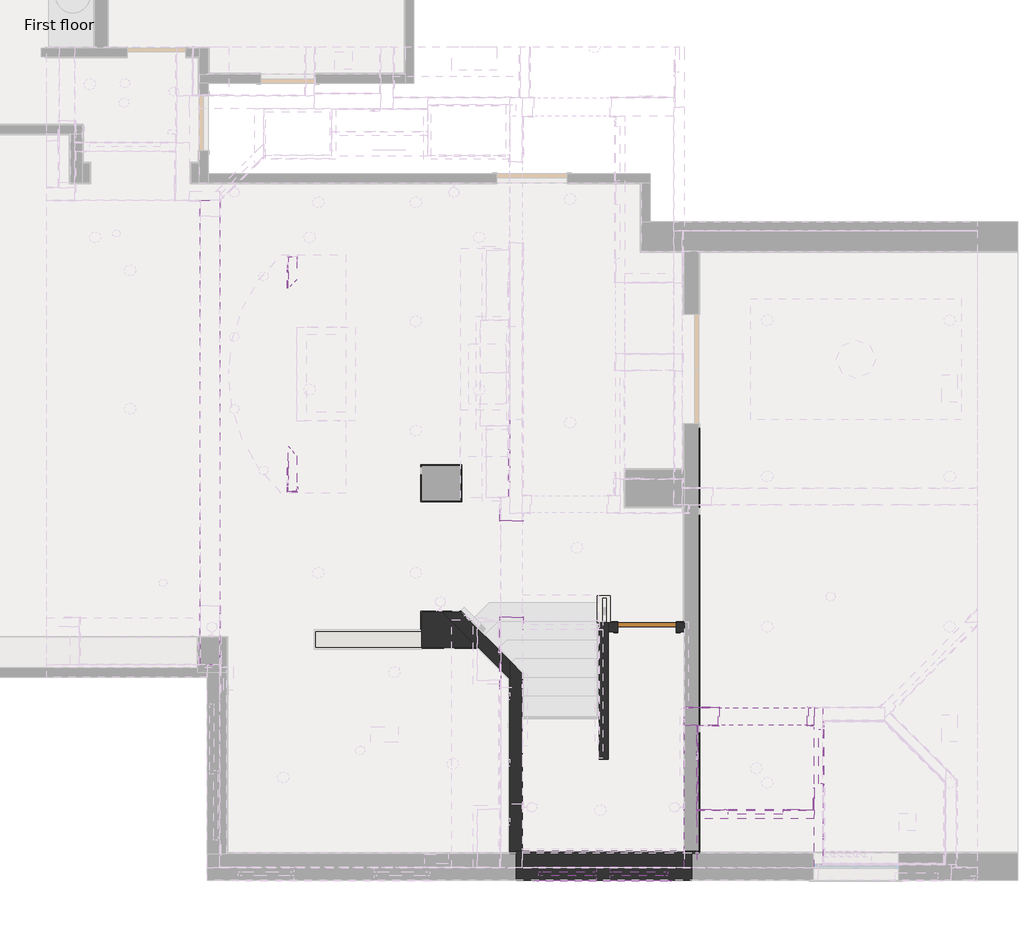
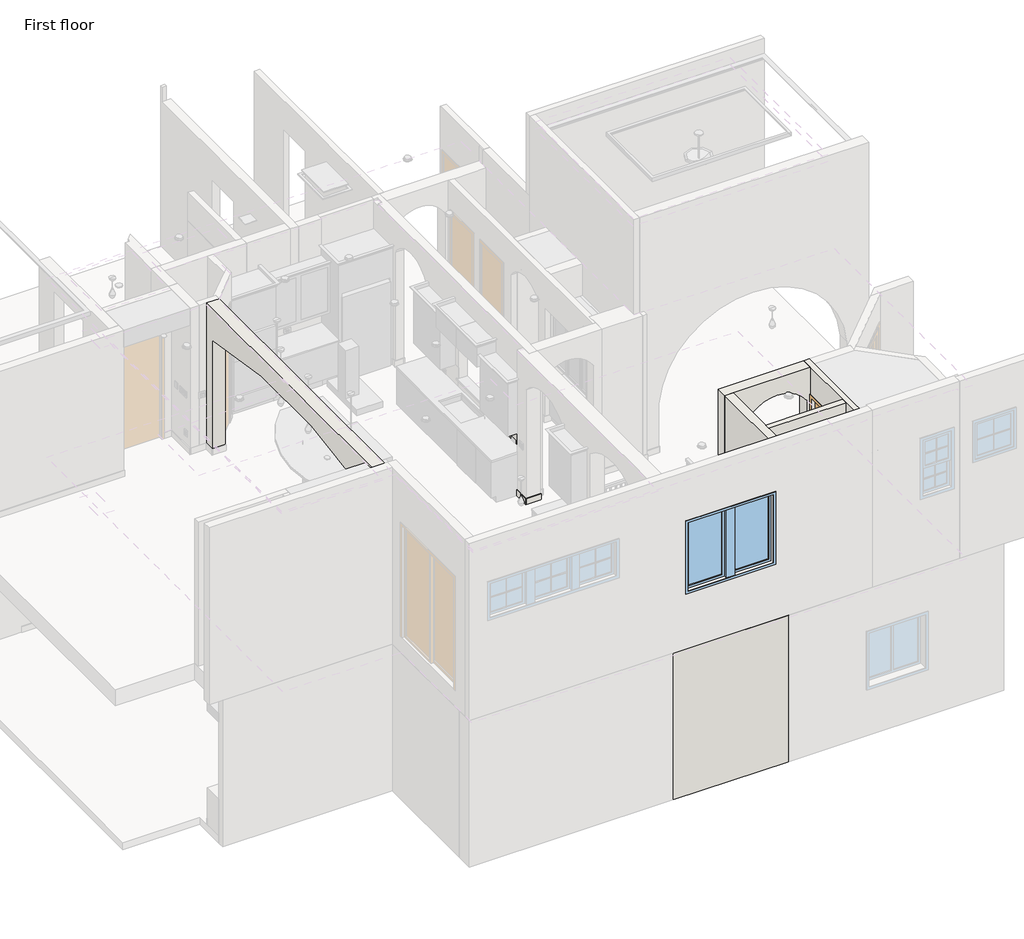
# One storey, part 4 of 14: 47 walls, 3 doors, 1 window.
"""IFC4 building model written with IfcOpenShell, lengths in millimetres."""

from ifc_helpers import new_model, si_unit, point, frame, frame_2d, origin, origin_with_axes, place, context, project, spatial, polyline, circle_curve, trimmed, segment, composite_curve, outline, extrude, faceted_brep, transform, mapped, element, save
from ifc_brep_helpers import plane_surface, revolved_surface, advanced_brep
from components import door_c2b4dc18, door_8ee43d1d, window_eebe5252

model = new_model("IFC4")

# Units and contexts
model_context = context("Model", 3, world=origin())
ifc_project = project(units=[si_unit("LENGTHUNIT", "METRE", prefix="MILLI")], contexts=[model_context])

# Site, building, storey
site = spatial("IfcSite", under=ifc_project)
building = spatial("IfcBuilding", under=site)
storey = spatial("IfcBuildingStorey", under=building, Name="First floor", Elevation=0.0)

# Doors
placement = place(None, origin())
door_shape = door_c2b4dc18(model_context)
element("IfcDoor", 1, ObjectType="Door_1 : 2'-4\" X 8'-0\"", at=placement, inside=storey, context=model_context, shape_type="MappedRepresentation", body=[
    mapped(door_shape, transform((7137.4, 857.25, 3251.2), x_axis=(-1.0, 0.0, 0.0), y_axis=(0.0, -1.0, 0.0), z_axis=(0.0, 0.0, 1.0))),
])
element("IfcDoor", 2, ObjectType="Door_1 : 2'-4\" X 8'-0\"", at=placement, inside=storey, context=model_context, shape_type="MappedRepresentation", body=[
    mapped(door_shape, transform((7956.55, 1612.9, 3251.2), x_axis=(0.0, 1.0, 0.0), y_axis=(-1.0, 0.0, 0.0), z_axis=(0.0, 0.0, 1.0))),
])
door_2_shape = door_8ee43d1d(model_context)
element("IfcDoor", 3, ObjectType="Door_1 : 2'-6\" X 8'-0\"", at=placement, inside=storey, context=model_context, shape_type="MappedRepresentation", body=[
    mapped(door_2_shape, transform((5727.7, 3295.65, 0.0), x_axis=(1.0, 0.0, 0.0), y_axis=(0.0, 1.0, 0.0), z_axis=(0.0, 0.0, 1.0))),
])

# Walls
element("IfcWall", 4, ObjectType="Wall Border_T1", at=placement, inside=storey, context=model_context, shape_type="SweptSolid", body=[
    extrude(outline(polyline([(6413.5, 5892.8), (6413.5, 368.3), (6400.8, 368.3), (6400.8, 5892.8), (6413.5, 5892.8)])), origin_with_axes(), (0.0, 0.0, 1.0), 127.0),
])
element("IfcWall", 5, ObjectType="Wall Border_T1", at=placement, inside=storey, context=model_context, shape_type="Brep", body=[
    faceted_brep([(6210.3, 3365.5, 0.0), (6197.6, 3365.5, 0.0), (6159.5, 3365.5, 0.0), (6159.5, 3365.5, 127.0), (6197.6, 3365.5, 127.0), (6210.3, 3365.5, 127.0), (6210.3, 3352.8, 0.0), (6210.3, 3352.8, 127.0), (6159.5, 3352.8, 127.0), (6159.5, 3352.8, 0.0)], [[[0, 1, 2, 3, 4, 5]], [[6, 7, 8, 9]], [[2, 1, 0, 6, 9]], [[3, 2, 9, 8]], [[5, 4, 3, 8, 7]], [[0, 5, 7, 6]]]),
])
element("IfcWall", 6, ObjectType="Wall Border_T1", at=placement, inside=storey, context=model_context, shape_type="SweptSolid", body=[
    extrude(outline(polyline([(5264.15, 3365.5), (5295.9, 3365.5), (5295.9, 3352.8), (5264.15, 3352.8), (5264.15, 3365.5)])), origin_with_axes(), (0.0, 0.0, 1.0), 127.0),
])
element("IfcWall", 7, ObjectType="Wall Border_T1", at=placement, inside=storey, context=model_context, shape_type="SweptSolid", body=[
    extrude(outline(polyline([(3307.2174749, 3505.3868122), (3455.3917009, 3357.2125862), (3446.4114448, 3348.2323301), (3301.9569627, 3492.6868122), (3307.2174749, 3492.6868122), (3307.2174749, 3505.3868122)])), origin_with_axes(), (0.0, 0.0, 1.0), 127.0),
])
element("IfcWall", 8, ObjectType="Wall Border_T1", at=placement, inside=storey, context=model_context, shape_type="Brep", body=[
    faceted_brep([(3307.2174749, 3505.3868122, 127.0), (3307.2174749, 3505.3868122, 0.0), (2795.4633407, 3505.3868122, 0.0), (2795.4633407, 3505.3868122, 127.0), (3307.2174749, 3492.6868122, 0.0), (3307.2174749, 3492.6868122, 127.0), (3301.9569627, 3492.6868122, 127.0), (2795.4633407, 3492.6868122, 127.0), (2795.4633407, 3492.6868122, 0.0), (3301.9569627, 3492.6868122, 0.0)], [[[0, 1, 2, 3]], [[4, 5, 6, 7, 8, 9]], [[1, 4, 9, 8, 2]], [[5, 0, 3, 7, 6]], [[1, 0, 5, 4]], [[3, 2, 8, 7]]]),
])
element("IfcWall", 9, ObjectType="Wall Border_T1", at=placement, inside=storey, context=model_context, shape_type="Brep", body=[
    faceted_brep([(2782.7633407, 3505.3868122, 0.0), (2782.7633407, 3251.1999999, 0.0), (2782.7633407, 3251.1999999, 127.0), (2782.7633407, 3505.3868122, 127.0), (2795.4633407, 3505.3868122, 0.0), (2795.4633407, 3505.3868122, 127.0), (2795.4633407, 3492.6868122, 127.0), (2795.4633407, 3251.1999999, 127.0), (2795.4633407, 3251.1999999, 0.0), (2795.4633407, 3492.6868122, 0.0)], [[[0, 1, 2, 3]], [[4, 5, 6, 7, 8, 9]], [[1, 0, 4, 9, 8]], [[2, 1, 8, 7]], [[3, 2, 7, 6, 5]], [[0, 3, 5, 4]]]),
])
element("IfcWall", 10, ObjectType="Wall Border_T1", at=placement, inside=storey, context=model_context, shape_type="Brep", body=[
    faceted_brep([(2782.7633407, 3251.1999999, 0.0), (1404.813341, 3251.1999999, 0.0), (1404.813341, 3251.1999999, 127.0), (2782.7633407, 3251.1999999, 127.0), (2782.7633407, 3238.4999999, 0.0), (2782.7633407, 3238.4999999, 127.0), (1417.513341, 3238.4999999, 127.0), (1404.813341, 3238.4999999, 127.0), (1404.813341, 3238.4999999, 0.0), (1417.513341, 3238.4999999, 0.0)], [[[0, 1, 2, 3]], [[4, 5, 6, 7, 8, 9]], [[1, 0, 4, 9, 8]], [[3, 2, 7, 6, 5]], [[0, 3, 5, 4]], [[2, 1, 8, 7]]]),
])
element("IfcWall", 11, ObjectType="Wall Border_T1", at=placement, inside=storey, context=model_context, shape_type="Brep", body=[
    faceted_brep([(1404.813341, 3022.6000001, 0.0), (3520.4528287, 3022.6000001, 0.0), (3520.4528287, 3022.6000001, 127.0), (1404.813341, 3022.6000001, 127.0), (1404.813341, 3035.3000001, 0.0), (1404.813341, 3035.3000001, 127.0), (1417.513341, 3035.3000001, 127.0), (3520.4528287, 3035.3000001, 127.0), (3520.4528287, 3035.3000001, 0.0), (1417.513341, 3035.3000001, 0.0)], [[[0, 1, 2, 3]], [[4, 5, 6, 7, 8, 9]], [[1, 0, 4, 9, 8]], [[2, 1, 8, 7]], [[3, 2, 7, 6, 5]], [[0, 3, 5, 4]]]),
])
element("IfcWall", 12, ObjectType="Wall Border_T1", at=placement, inside=storey, context=model_context, shape_type="Brep", body=[
    faceted_brep([(2781.3, 5397.5, 0.0), (2794.0, 5397.5, 0.0), (3302.0, 5397.5, 0.0), (3314.7, 5397.5, 0.0), (3314.7, 5397.5, 127.0), (3302.0, 5397.5, 127.0), (2794.0, 5397.5, 127.0), (2781.3, 5397.5, 127.0), (2781.3, 5410.2, 0.0), (2781.3, 5410.2, 127.0), (3314.7, 5410.2, 127.0), (3314.7, 5410.2, 0.0)], [[[0, 1, 2, 3, 4, 5, 6, 7]], [[8, 9, 10, 11]], [[3, 2, 1, 0, 8, 11]], [[7, 6, 5, 4, 10, 9]], [[4, 3, 11, 10]], [[0, 7, 9, 8]]]),
])
element("IfcWall", 13, ObjectType="Wall Border_T1", at=placement, inside=storey, context=model_context, shape_type="Brep", body=[
    faceted_brep([(3302.0, 5397.5, 0.0), (3302.0, 4940.3, 0.0), (3302.0, 4927.6, 0.0), (3302.0, 4927.6, 127.0), (3302.0, 4940.3, 127.0), (3302.0, 5397.5, 127.0), (3314.7, 5397.5, 0.0), (3314.7, 5397.5, 127.0), (3314.7, 4927.6, 127.0), (3314.7, 4927.6, 0.0)], [[[0, 1, 2, 3, 4, 5]], [[6, 7, 8, 9]], [[2, 1, 0, 6, 9]], [[5, 4, 3, 8, 7]], [[0, 5, 7, 6]], [[3, 2, 9, 8]]]),
])
element("IfcWall", 14, ObjectType="Wall Border_T1", at=placement, inside=storey, context=model_context, shape_type="Brep", body=[
    faceted_brep([(3302.0, 4940.3, 0.0), (2794.0, 4940.3, 0.0), (2781.3, 4940.3, 0.0), (2781.3, 4940.3, 127.0), (2794.0, 4940.3, 127.0), (3302.0, 4940.3, 127.0), (3302.0, 4927.6, 0.0), (3302.0, 4927.6, 127.0), (2781.3, 4927.6, 127.0), (2781.3, 4927.6, 0.0)], [[[0, 1, 2, 3, 4, 5]], [[6, 7, 8, 9]], [[2, 1, 0, 6, 9]], [[5, 4, 3, 8, 7]], [[0, 5, 7, 6]], [[3, 2, 9, 8]]]),
])
element("IfcWall", 15, ObjectType="Wall Border_T1", at=placement, inside=storey, context=model_context, shape_type="SweptSolid", body=[
    extrude(outline(polyline([(2794.0, 5397.5), (2794.0, 4940.3), (2781.3, 4940.3), (2781.3, 5397.5), (2794.0, 5397.5)])), origin_with_axes(), (0.0, 0.0, 1.0), 127.0),
])
element("IfcWall", 16, ObjectType="Wall Border_T1", at=placement, inside=storey, context=model_context, shape_type="Brep", body=[
    faceted_brep([(4114.8, 3263.9, 3251.2), (4114.8, 3428.8947939, 3251.2), (4114.8, 3428.8947939, 3378.2), (4114.8, 3263.9, 3378.2), (4102.1, 3263.9, 3251.2), (4102.1, 3263.9, 3378.2), (4102.1, 3416.1947939, 3378.2), (4102.1, 3428.8947939, 3378.2), (4102.1, 3428.8947939, 3251.2), (4102.1, 3416.1947939, 3251.2)], [[[0, 1, 2, 3]], [[4, 5, 6, 7, 8, 9]], [[1, 0, 4, 9, 8]], [[3, 2, 7, 6, 5]], [[0, 3, 5, 4]], [[2, 1, 8, 7]]]),
])
element("IfcWall", 17, ObjectType="Wall Border_T1", at=placement, inside=storey, context=model_context, shape_type="Brep", body=[
    faceted_brep([(4102.1, 3428.8947939, 3251.2), (3810.0, 3428.8947939, 3251.2), (3810.0, 3428.8947939, 3378.2), (4102.1, 3428.8947939, 3378.2), (4102.1, 3416.1947939, 3251.2), (4102.1, 3416.1947939, 3378.2), (3822.7, 3416.1947939, 3378.2), (3810.0, 3416.1947939, 3378.2), (3810.0, 3416.1947939, 3251.2), (3822.7, 3416.1947939, 3251.2)], [[[0, 1, 2, 3]], [[4, 5, 6, 7, 8, 9]], [[1, 0, 4, 9, 8]], [[3, 2, 7, 6, 5]], [[0, 3, 5, 4]], [[2, 1, 8, 7]]]),
])
element("IfcWall", 18, ObjectType="Wall Border_T1", at=placement, inside=storey, context=model_context, shape_type="SweptSolid", body=[
    extrude(outline(polyline([(3822.7, 3416.1947939), (3822.7, 3384.55), (3810.0, 3384.55), (3810.0, 3416.1947939), (3822.7, 3416.1947939)])), frame((0.0, 0.0, 3251.2), z_axis=(0.0, 0.0, 1.0), x_axis=(1.0, 0.0, 0.0)), (0.0, 0.0, 1.0), 127.0),
])
element("IfcWall", 19, ObjectType="Wall Border_T1", at=placement, inside=storey, context=model_context, shape_type="Brep", body=[
    faceted_brep([(6210.3, 2247.9, 3251.2), (6654.8, 2247.9, 3251.2), (6667.5, 2247.9, 3251.2), (6667.5, 2247.9, 3378.2), (6654.8, 2247.9, 3378.2), (6210.3, 2247.9, 3378.2), (6210.3, 2260.6, 3251.2), (6210.3, 2260.6, 3378.2), (6667.5, 2260.6, 3378.2), (6667.5, 2260.6, 3251.2)], [[[0, 1, 2, 3, 4, 5]], [[6, 7, 8, 9]], [[2, 1, 0, 6, 9]], [[5, 4, 3, 8, 7]], [[0, 5, 7, 6]], [[3, 2, 9, 8]]]),
])
element("IfcWall", 20, ObjectType="Wall Border_T1", at=placement, inside=storey, context=model_context, shape_type="Brep", body=[
    faceted_brep([(6654.8, 2247.9, 3251.2), (6654.8, 2019.3, 3251.2), (6654.8, 2006.6, 3251.2), (6654.8, 2006.6, 3378.2), (6654.8, 2019.3, 3378.2), (6654.8, 2247.9, 3378.2), (6667.5, 2247.9, 3251.2), (6667.5, 2247.9, 3378.2), (6667.5, 2006.6, 3378.2), (6667.5, 2006.6, 3251.2)], [[[0, 1, 2, 3, 4, 5]], [[6, 7, 8, 9]], [[2, 1, 0, 6, 9]], [[5, 4, 3, 8, 7]], [[0, 5, 7, 6]], [[3, 2, 9, 8]]]),
])
element("IfcWall", 21, ObjectType="Wall Border_T1", at=placement, inside=storey, context=model_context, shape_type="Brep", body=[
    faceted_brep([(6654.8, 2019.3, 3251.2), (6375.4, 2019.3, 3251.2), (6375.4, 2019.3, 3378.2), (6654.8, 2019.3, 3378.2), (6654.8, 2006.6, 3251.2), (6654.8, 2006.6, 3378.2), (6388.1, 2006.6, 3378.2), (6375.4, 2006.6, 3378.2), (6375.4, 2006.6, 3251.2), (6388.1, 2006.6, 3251.2)], [[[0, 1, 2, 3]], [[4, 5, 6, 7, 8, 9]], [[1, 0, 4, 9, 8]], [[3, 2, 7, 6, 5]], [[0, 3, 5, 4]], [[2, 1, 8, 7]]]),
])
element("IfcWall", 22, ObjectType="Wall Border_T1", at=placement, inside=storey, context=model_context, shape_type="Brep", body=[
    faceted_brep([(6375.4, 2006.6, 3251.2), (6375.4, 914.4, 3251.2), (6375.4, 914.4, 3378.2), (6375.4, 2006.6, 3378.2), (6388.1, 2006.6, 3251.2), (6388.1, 2006.6, 3378.2), (6388.1, 927.1, 3378.2), (6388.1, 914.4, 3378.2), (6388.1, 914.4, 3251.2), (6388.1, 927.1, 3251.2)], [[[0, 1, 2, 3]], [[4, 5, 6, 7, 8, 9]], [[1, 0, 4, 9, 8]], [[3, 2, 7, 6, 5]], [[0, 3, 5, 4]], [[2, 1, 8, 7]]]),
])
element("IfcWall", 23, ObjectType="Wall Border_T1", at=placement, inside=storey, context=model_context, shape_type="SweptSolid", body=[
    extrude(outline(polyline([(6731.0, 914.4), (6388.1, 914.4), (6388.1, 927.1), (6731.0, 927.1), (6731.0, 914.4)])), frame((0.0, 0.0, 3251.2), z_axis=(0.0, 0.0, 1.0), x_axis=(1.0, 0.0, 0.0)), (0.0, 0.0, 1.0), 127.0),
])
element("IfcWall", 24, ObjectType="Wall Border_T1", at=placement, inside=storey, context=model_context, shape_type="SweptSolid", body=[
    extrude(outline(polyline([(7543.8, 927.1), (7886.7, 927.1), (7886.7, 914.4), (7543.8, 914.4), (7543.8, 927.1)])), frame((0.0, 0.0, 3251.2), z_axis=(0.0, 0.0, 1.0), x_axis=(1.0, 0.0, 0.0)), (0.0, 0.0, 1.0), 127.0),
])
element("IfcWall", 25, ObjectType="Wall Border_T1", at=placement, inside=storey, context=model_context, shape_type="Brep", body=[
    faceted_brep([(7886.7, 2019.3, 3251.2), (7823.2, 2019.3, 3251.2), (7810.5, 2019.3, 3251.2), (7810.5, 2019.3, 3378.2), (7823.2, 2019.3, 3378.2), (7886.7, 2019.3, 3378.2), (7886.7, 2006.6, 3251.2), (7886.7, 2006.6, 3378.2), (7810.5, 2006.6, 3378.2), (7810.5, 2006.6, 3251.2)], [[[0, 1, 2, 3, 4, 5]], [[6, 7, 8, 9]], [[2, 1, 0, 6, 9]], [[5, 4, 3, 8, 7]], [[0, 5, 7, 6]], [[3, 2, 9, 8]]]),
])
element("IfcWall", 26, ObjectType="Wall Border_T1", at=placement, inside=storey, context=model_context, shape_type="Brep", body=[
    faceted_brep([(7823.2, 2019.3, 3251.2), (7823.2, 2247.9, 3251.2), (7823.2, 2260.6, 3251.2), (7823.2, 2260.6, 3378.2), (7823.2, 2247.9, 3378.2), (7823.2, 2019.3, 3378.2), (7810.5, 2019.3, 3251.2), (7810.5, 2019.3, 3378.2), (7810.5, 2260.6, 3378.2), (7810.5, 2260.6, 3251.2)], [[[0, 1, 2, 3, 4, 5]], [[6, 7, 8, 9]], [[2, 1, 0, 6, 9]], [[5, 4, 3, 8, 7]], [[0, 5, 7, 6]], [[3, 2, 9, 8]]]),
])
element("IfcWall", 27, ObjectType="Wall Border_T1", at=placement, inside=storey, context=model_context, shape_type="Brep", body=[
    faceted_brep([(3810.0, 3390.9, 4165.6), (3810.0, 2489.2, 4165.6), (3810.0, 2489.2, 4318.0), (3810.0, 2489.2, 4343.4), (3810.0, 2489.2, 4546.6), (3810.0, 3390.9, 4546.6), (3822.7, 3390.9, 4165.6), (3822.7, 3390.9, 4546.6), (3822.7, 2489.2, 4546.6), (3822.7, 2489.2, 4343.4), (3822.7, 2489.2, 4318.0), (3822.7, 2489.2, 4165.6)], [[[0, 1, 2, 3, 4, 5]], [[6, 7, 8, 9, 10, 11]], [[1, 0, 6, 11]], [[4, 3, 2, 1, 11, 10, 9, 8]], [[5, 4, 8, 7]], [[0, 5, 7, 6]]]),
])
element("IfcWall", 28, ObjectType="Wall Border_T1", at=placement, inside=storey, context=model_context, shape_type="Brep", body=[
    faceted_brep([(7886.7, 1206.5, 3251.2), (7886.7, 927.1, 3251.2), (7886.7, 914.4, 3251.2), (7886.7, 914.4, 3378.2), (7886.7, 927.1, 3378.2), (7886.7, 1206.5, 3378.2), (7899.4, 1206.5, 3251.2), (7899.4, 1206.5, 3378.2), (7899.4, 914.4, 3378.2), (7899.4, 914.4, 3251.2)], [[[0, 1, 2, 3, 4, 5]], [[6, 7, 8, 9]], [[2, 1, 0, 6, 9]], [[5, 4, 3, 8, 7]], [[0, 5, 7, 6]], [[3, 2, 9, 8]]]),
])
element("IfcWall", 29, ObjectType="Wall Border_T1", at=placement, inside=storey, context=model_context, shape_type="Brep", body=[
    faceted_brep([(3810.0, 4978.2947939, 3251.2), (3810.0, 4673.4947939, 3251.2), (3810.0, 4673.4947939, 3378.2), (3810.0, 4978.2947939, 3378.2), (3822.7, 4978.2947939, 3251.2), (3822.7, 4978.2947939, 3378.2), (3822.7, 4686.1947939, 3378.2), (3822.7, 4673.4947939, 3378.2), (3822.7, 4673.4947939, 3251.2), (3822.7, 4686.1947939, 3251.2)], [[[0, 1, 2, 3]], [[4, 5, 6, 7, 8, 9]], [[1, 0, 4, 9, 8]], [[3, 2, 7, 6, 5]], [[0, 3, 5, 4]], [[2, 1, 8, 7]]]),
])
element("IfcWall", 30, ObjectType="Wall Border_T1", at=placement, inside=storey, context=model_context, shape_type="Brep", body=[
    faceted_brep([(3822.7, 4673.4947939, 3251.2), (4114.8, 4673.4947939, 3251.2), (4114.8, 4673.4947939, 3378.2), (3822.7, 4673.4947939, 3378.2), (3822.7, 4686.1947939, 3251.2), (3822.7, 4686.1947939, 3378.2), (4102.1, 4686.1947939, 3378.2), (4114.8, 4686.1947939, 3378.2), (4114.8, 4686.1947939, 3251.2), (4102.1, 4686.1947939, 3251.2)], [[[0, 1, 2, 3]], [[4, 5, 6, 7, 8, 9]], [[1, 0, 4, 9, 8]], [[3, 2, 7, 6, 5]], [[0, 3, 5, 4]], [[2, 1, 8, 7]]]),
])
element("IfcWall", 31, ObjectType="Wall Border_T1", at=placement, inside=storey, context=model_context, shape_type="Brep", body=[
    faceted_brep([(3924.3, 6019.6947939, 4165.6), (3924.3, 4984.6447939, 4165.6), (3924.3, 4984.6447939, 4546.6), (3924.3, 6019.6947939, 4546.6), (3924.3, 6019.6947939, 4318.0), (3924.3, 6019.6947939, 4292.6), (3937.0, 6019.6947939, 4165.6), (3937.0, 6019.6947939, 4292.6), (3937.0, 6019.6947939, 4318.0), (3937.0, 6019.6947939, 4546.6), (3937.0, 4984.6447939, 4546.6), (3937.0, 4984.6447939, 4165.6)], [[[0, 1, 2, 3, 4, 5]], [[6, 7, 8, 9, 10, 11]], [[1, 0, 6, 11]], [[2, 1, 11, 10]], [[3, 2, 10, 9]], [[0, 5, 4, 3, 9, 8, 7, 6]]]),
])
element("IfcWall", 32, ObjectType="Wall Border_T1", at=placement, inside=storey, context=model_context, shape_type="SweptSolid", body=[
    extrude(outline(composite_curve([segment(polyline([(1041.4, 7709.5127723), (1041.4, 8115.3), (1054.1, 8115.3), (1054.1, 7722.9038022)]), True, "CONTINUOUS"), segment(trimmed(circle_curve(frame_2d((2233.8665727, 6591.3)), 1634.7404477), [point((1054.1, 7722.9038022))], [point((1041.4, 7709.5127723))], True, "CARTESIAN"), True, "CONTINUOUS")], self_intersect=False)), frame((0.0, 0.0, 3251.2), z_axis=(0.0, 0.0, 1.0), x_axis=(1.0, 0.0, 0.0)), (0.0, 0.0, 1.0), 127.0),
])
element("IfcWall", 33, ObjectType="Wall Border_T1", at=placement, inside=storey, context=model_context, shape_type="Brep", body=[
    faceted_brep([(1168.4, 5124.45, 3251.2), (1168.4, 5067.3, 3251.2), (1168.4, 5054.6, 3251.2), (1168.4, 5054.6, 3378.2), (1168.4, 5067.3, 3378.2), (1168.4, 5124.45, 3378.2), (1181.1, 5124.45, 3251.2), (1181.1, 5124.45, 3378.2), (1181.1, 5054.6, 3378.2), (1181.1, 5054.6, 3251.2)], [[[0, 1, 2, 3, 4, 5]], [[6, 7, 8, 9]], [[2, 1, 0, 6, 9]], [[5, 4, 3, 8, 7]], [[0, 5, 7, 6]], [[3, 2, 9, 8]]]),
])
element("IfcWall", 34, ObjectType="Wall Border_T1", at=placement, inside=storey, context=model_context, shape_type="Brep", body=[
    faceted_brep([(1168.4, 5067.3, 3251.2), (1054.1, 5067.3, 3251.2), (1041.4, 5067.3, 3251.2), (1041.4, 5067.3, 3378.2), (1054.1, 5067.3, 3378.2), (1168.4, 5067.3, 3378.2), (1168.4, 5054.6, 3251.2), (1168.4, 5054.6, 3378.2), (1041.4, 5054.6, 3378.2), (1041.4, 5054.6, 3251.2)], [[[0, 1, 2, 3, 4, 5]], [[6, 7, 8, 9]], [[2, 1, 0, 6, 9]], [[5, 4, 3, 8, 7]], [[0, 5, 7, 6]], [[3, 2, 9, 8]]]),
])
element("IfcWall", 35, ObjectType="Wall Border_T1", at=placement, inside=storey, context=model_context, shape_type="SweptSolid", body=[
    extrude(outline(composite_curve([segment(polyline([(1054.1, 5459.6961978), (1054.1, 5067.3), (1041.4, 5067.3), (1041.4, 5473.0872277)]), True, "CONTINUOUS"), segment(trimmed(circle_curve(frame_2d((2233.8665727, 6591.3)), 1634.7404477), [point((1041.4, 5473.0872277))], [point((1054.1, 5459.6961978))], True, "CARTESIAN"), True, "CONTINUOUS")], self_intersect=False)), frame((0.0, 0.0, 3251.2), z_axis=(0.0, 0.0, 1.0), x_axis=(1.0, 0.0, 0.0)), (0.0, 0.0, 1.0), 127.0),
])
element("IfcWall", 36, ObjectType="Wall_1'3\"", at=placement, inside=storey, context=model_context, shape_type="Brep", body=[
    faceted_brep([(4019.5496704, 381.0, 2565.4), (4102.1, 381.0, 2565.4), (6210.3, 381.0, 2565.4), (6400.8, 381.0, 2565.4), (6400.8, 381.0, 0.0), (6210.3, 381.0, 0.0), (4102.0996704, 381.0, 0.0), (4019.5496704, 381.0, 0.0), (4019.5496704, 0.0, 2908.3), (4019.5496704, 0.0, -152.4), (6305.55, 0.0, -152.4), (6305.55, 0.0, 2908.3), (4019.5496704, 349.25, -152.4), (4019.5496704, 355.6, -152.4), (6305.55, 355.6, -152.4), (6305.55, 355.6, 2908.3), (5841.9131509, 355.6, 2908.3), (4019.5496704, 355.6, 2908.3), (4019.5496704, 349.25, 2908.3), (6400.8, 355.6, 2565.4), (6400.8, 355.6, 127.0), (6400.8, 355.6, 0.0), (6400.8, 368.3, 0.0), (4019.5496704, 355.6, 2565.4), (4019.5496704, 355.6, 0.0), (6305.55, 355.6, 2565.4), (6305.55, 355.6, 0.0), (5841.9131509, 355.6, 2565.4)], [[[0, 1, 2, 3, 4, 5, 6, 7]], [[8, 9, 10, 11]], [[10, 9, 12, 13, 14]], [[8, 11, 15, 16, 17, 18]], [[3, 19, 20, 21, 22, 4]], [[9, 8, 18, 17, 23, 0, 7, 24, 13, 12]], [[19, 25, 26, 21, 20]], [[11, 10, 14, 26, 25, 15]], [[27, 25, 19, 3, 2, 1, 0, 23]], [[16, 27, 23, 17]], [[27, 16, 15, 25]], [[26, 24, 7, 6, 5, 4, 22, 21]], [[24, 26, 14, 13]]]),
])
element("IfcWall", 37, ObjectType="Wall_1'6\"", at=placement, inside=storey, context=model_context, shape_type="SweptSolid", body=[
    extrude(outline(polyline([(2795.4484009, 3492.5046239), (3068.5144491, 3492.4988917), (3525.7240469, 3035.2892939), (2795.4388034, 3035.304624), (2795.4484009, 3492.5046239)])), origin_with_axes(), (0.0, 0.0, 1.0), 2565.4),
])
element("IfcWall", 38, ObjectType="Wall_10\"", at=placement, inside=storey, context=model_context, shape_type="AdvancedBrep", body=[
    advanced_brep(
    [(165.1, 8851.9, 6299.2), (165.1, 2806.7, 6299.2), (165.1, 2806.7, 3251.2), (165.1, 3568.7, 3251.2), (165.1, 3568.7, 5638.8), (165.1, 8648.7, 5638.8), (165.1, 8648.7, 3251.2), (165.1, 8851.9, 3251.2), (-88.9, 2806.7, 6299.2), (-88.9, 8851.9, 6299.2), (-88.9, 8851.9, 3378.2), (-88.9, 8851.9, 3251.2), (-88.9, 8839.2, 3251.2), (-88.9, 8648.7, 3251.2), (-88.9, 8648.7, 5638.8), (-88.9, 3568.7, 5638.8), (-88.9, 3568.7, 3251.2), (-88.9, 2806.7, 3251.2), (-88.9, 2806.7, 5956.3), (-88.9, 2806.7, 6261.1)],
    [
        (0, 1),
        (1, 2),
        (2, 3),
        (3, 4),
        (4, 5, circle_curve(frame((165.1, 6108.7, -4792.1333333), z_axis=(-1.0, 0.0, 0.0), x_axis=(0.0, 0.0, -1.0)), 10735.7333333)),
        (5, 6),
        (6, 7),
        (7, 0),
        (8, 9),
        (9, 10),
        (10, 11),
        (11, 12),
        (12, 13),
        (13, 14),
        (14, 15, circle_curve(frame((-88.9, 6108.7, -4792.1333333), z_axis=(1.0, 0.0, 0.0), x_axis=(0.0, 0.0, -1.0)), 10735.7333333)),
        (15, 16),
        (16, 17),
        (17, 18),
        (18, 19),
        (19, 8),
        (2, 17),
        (16, 3),
        (11, 7),
        (6, 13),
        (0, 9),
        (8, 1),
        (14, 5),
        (4, 15),
    ],
    [
        plane_surface(frame((165.1, 2812.4178217, 3251.2), z_axis=(1.0, 0.0, 0.0), x_axis=(0.0, 1.0, 0.0))),
        plane_surface(frame((-88.9, 2812.4178217, 3251.2), z_axis=(-1.0, 0.0, 0.0), x_axis=(0.0, -1.0, 0.0))),
        plane_surface(frame((165.1, 2724.15, 3251.2), z_axis=(0.0, 0.0, -1.0), x_axis=(-1.0, 0.0, 0.0))),
        plane_surface(frame((165.1, 8909.05, 6299.2), z_axis=(0.0, 0.0, 1.0), x_axis=(-1.0, 0.0, 0.0))),
        plane_surface(frame((0.0, 2806.7, 2908.3), z_axis=(0.0, -1.0, 0.0), x_axis=(-1.0, 0.0, 0.0))),
        plane_surface(frame((-228.6, 8851.9, 3251.2), z_axis=(0.0, 1.0, 0.0), x_axis=(1.0, 0.0, 0.0))),
        revolved_surface(polyline([(-88.9, 6108.7, -15527.8666666), (165.1, 6108.7, -15527.8666666)]), (165.1, 6108.7, -4792.1333333), (-1.0, 0.0, 0.0)),
        plane_surface(frame((-88.9, 8648.7, 5638.8), z_axis=(0.0, -1.0, 0.0), x_axis=(1.0, 0.0, 0.0))),
        plane_surface(frame((-88.9, 3568.7, 3251.2), z_axis=(0.0, 1.0, 0.0), x_axis=(1.0, 0.0, 0.0))),
    ],
    [
        (0, [[1, 2, 3, 4, 5, 6, 7, 8]]),
        (1, [[9, 10, 11, 12, 13, 14, 15, 16, 17, 18, 19, 20]]),
        (2, [[21, -17, 22, -3]]),
        (2, [[23, -7, 24, -13, -12]]),
        (3, [[-1, 25, -9, 26]]),
        (4, [[-2, -26, -20, -19, -18, -21]]),
        (5, [[-8, -23, -11, -10, -25]]),
        (6, [[27, -5, 28, -15]]),
        (7, [[-27, -14, -24, -6]]),
        (8, [[-28, -4, -22, -16]]),
    ],
),
])
element("IfcWall", 39, ObjectType="Wall_4.5\"", at=placement, inside=storey, context=model_context, shape_type="Brep", body=[
    faceted_brep([(8013.7, 1968.5, 5689.6), (8013.7, 1968.5, 3251.2), (8013.7, 2082.8, 3251.2), (8013.7, 2247.9, 3251.2), (8013.7, 2247.9, 6299.2), (8013.7, 2082.8, 6299.2), (8013.7, 203.2, 6299.2), (8013.7, 203.2, 4368.8), (8013.7, 203.2, 3251.2), (8013.7, 215.9, 3251.2), (8013.7, 1257.3, 3251.2), (8013.7, 1257.3, 5689.6), (7899.4, 2247.9, 3251.2), (7899.4, 2019.3, 3251.2), (7899.4, 1968.5, 3251.2), (7899.4, 1968.5, 5689.6), (7899.4, 1257.3, 5689.6), (7899.4, 1257.3, 3251.2), (7899.4, 914.4, 3251.2), (7899.4, 800.1, 3251.2), (7899.4, 165.1, 3251.2), (7899.4, 165.1, 6299.2), (7899.4, 800.1, 6299.2), (7899.4, 914.4, 6299.2), (7899.4, 2019.3, 6299.2), (7899.4, 2247.9, 6299.2), (7956.55, 203.2, 3251.2), (7956.55, 165.1, 3251.2), (7956.55, 165.1, 6299.2), (7956.55, 203.2, 6299.2)], [[[0, 1, 2, 3, 4, 5, 6, 7, 8, 9, 10, 11]], [[12, 13, 14, 15, 16, 17, 18, 19, 20, 21, 22, 23, 24, 25]], [[3, 2, 1, 14, 13, 12]], [[10, 9, 8, 26, 27, 20, 19, 18, 17]], [[6, 5, 4, 25, 24, 23, 22, 21, 28, 29]], [[8, 7, 6, 29, 26]], [[29, 28, 27, 26]], [[28, 21, 20, 27]], [[4, 3, 12, 25]], [[15, 14, 1, 0]], [[16, 15, 0, 11]], [[17, 16, 11, 10]]]),
])
element("IfcWall", 40, ObjectType="Wall_4.5\"", at=placement, inside=storey, context=model_context, shape_type="SweptSolid", body=[
    extrude(outline(polyline([(3251.2, 6375.4), (3251.2, 6781.8), (5689.6, 6781.8), (5689.6, 7493.0), (3251.2, 7493.0), (3251.2, 7899.4), (6299.2, 7899.4), (6299.2, 6375.4), (3251.2, 6375.4)])), frame((0.0, 800.1, 0.0), z_axis=(0.0, 1.0, 0.0), x_axis=(0.0, 0.0, 1.0)), (0.0, 0.0, 1.0), 114.3),
])
element("IfcWall", 41, ObjectType="Wall_4.5\"", at=placement, inside=storey, context=model_context, shape_type="Brep", body=[
    faceted_brep([(6210.3, 3352.8, 0.0), (6108.7, 3352.8, 0.0), (6108.7, 3352.8, 2438.4), (5346.7, 3352.8, 2438.4), (5346.7, 3352.8, 0.0), (5245.0999879, 3352.8, 0.0), (5219.7, 3352.8, 0.0), (5219.7, 3352.8, 2565.4), (6210.3, 3352.8, 2565.4), (6108.7, 3238.5, 2438.4), (6108.7, 3238.5, 0.0), (6210.3, 3238.5, 0.0), (6210.3, 3238.5, 2565.4), (5219.7, 3238.5, 2565.4), (5219.7, 3238.5, 0.0), (5346.7, 3238.5, 0.0), (5346.7, 3238.5, 2438.4)], [[[0, 1, 2, 3, 4, 5, 6, 7, 8]], [[9, 10, 11, 12, 13, 14, 15, 16]], [[15, 14, 6, 5, 4]], [[11, 10, 1, 0]], [[8, 7, 13, 12]], [[0, 8, 12, 11]], [[2, 1, 10, 9]], [[3, 2, 9, 16]], [[4, 3, 16, 15]], [[7, 6, 14, 13]]]),
])
element("IfcWall", 42, ObjectType="Wall_4.5\"", at=placement, inside=storey, context=model_context, shape_type="Brep", body=[
    faceted_brep([(5105.4, 3352.8, 0.0), (5105.4, 1574.8, 0.0), (5105.4, 1574.8, 1696.24375), (5105.4, 1625.6000484, 1696.24375), (5105.4, 1651.0000484, 1696.24375), (5105.4, 1651.0000484, 1887.5375), (5105.4, 1894.1142788, 1887.5375), (5105.4, 1894.1142788, 2078.83125), (5105.4, 2137.2285091, 2078.83125), (5105.4, 2137.2285091, 2270.125), (5105.4, 2380.3428848, 2270.125), (5105.4, 2380.3428848, 2461.41875), (5105.4, 2623.4571152, 2461.41875), (5105.4, 2623.4571152, 2652.7125), (5105.4, 2866.5714182, 2652.7125), (5105.4, 2866.5714182, 2844.00625), (5105.4, 3109.6857212, 2844.00625), (5105.4, 3109.6857212, 3035.3), (5105.4, 3263.9, 3035.3), (5105.4, 3263.9, 2908.3), (5105.4, 3352.8, 2908.3), (5219.7, 1574.8, 0.0), (5219.7, 3238.5, 0.0), (5219.7, 3352.8, 0.0), (5219.7, 3352.8, 2565.4), (5219.7, 3352.8, 2908.3), (5219.7, 3263.9, 2908.3), (5219.7, 3263.9, 3035.3), (5219.7, 3109.6857212, 3035.3), (5219.7, 3109.6857212, 2844.00625), (5219.7, 2866.5714182, 2844.00625), (5219.7, 2866.5714182, 2652.7125), (5219.7, 2623.4571152, 2652.7125), (5219.7, 2623.4571152, 2461.41875), (5219.7, 2380.3428848, 2461.41875), (5219.7, 2380.3428848, 2270.125), (5219.7, 2137.2285091, 2270.125), (5219.7, 2137.2285091, 2078.83125), (5219.7, 1894.1142788, 2078.83125), (5219.7, 1894.1142788, 1887.5375), (5219.7, 1651.0000484, 1887.5375), (5219.7, 1651.0000484, 1696.24375), (5219.7, 1625.6000484, 1696.24375), (5219.7, 1574.8, 1696.24375)], [[[0, 1, 2, 3, 4, 5, 6, 7, 8, 9, 10, 11, 12, 13, 14, 15, 16, 17, 18, 19, 20]], [[21, 22, 23, 24, 25, 26, 27, 28, 29, 30, 31, 32, 33, 34, 35, 36, 37, 38, 39, 40, 41, 42, 43]], [[1, 0, 23, 22, 21]], [[1, 21, 43, 2]], [[19, 26, 25, 20]], [[26, 19, 18, 27]], [[40, 5, 4, 41]], [[5, 40, 39, 6]], [[6, 39, 38, 7]], [[7, 38, 37, 8]], [[8, 37, 36, 9]], [[9, 36, 35, 10]], [[10, 35, 34, 11]], [[11, 34, 33, 12]], [[12, 33, 32, 13]], [[42, 3, 2, 43]], [[13, 32, 31, 14]], [[14, 31, 30, 15]], [[15, 30, 29, 16]], [[16, 29, 28, 17]], [[17, 28, 27, 18]], [[41, 4, 3, 42]], [[23, 0, 20, 25, 24]]]),
])
element("IfcWall", 43, ObjectType="Wall_4.5\"", at=placement, inside=storey, context=model_context, shape_type="AdvancedBrep", body=[
    advanced_brep(
    [(1168.4, 5067.3, 3251.2), (1168.4, 5524.5, 3251.2), (1168.4, 5524.5, 4076.7), (1168.4, 5067.3, 4076.7), (1168.4, 5067.3, 3378.2), (1054.1, 5067.3, 3251.2), (1054.1, 5067.3, 4076.7), (1054.1, 5478.121646, 4076.7), (1054.1, 5652.453851, 4076.7), (1054.1, 5652.453851, 3251.2), (1054.1, 5478.121646, 3251.2)],
    [
        (0, 1),
        (1, 2),
        (2, 3),
        (3, 4),
        (4, 0),
        (5, 6),
        (6, 7),
        (7, 8),
        (8, 9),
        (9, 10),
        (10, 5),
        (0, 5),
        (9, 1, circle_curve(frame((2233.8665727, 6591.3, 3251.2), z_axis=(0.0, 0.0, 1.0), x_axis=(1.0, 0.0, 0.0)), 1507.7404477)),
        (2, 8, circle_curve(frame((2233.8665727, 6591.3, 4076.7), z_axis=(0.0, 0.0, -1.0), x_axis=(1.0, 0.0, 0.0)), 1507.7404477)),
        (6, 3),
    ],
    [
        plane_surface(frame((1168.4, 5067.3, 3251.2), z_axis=(1.0, 0.0, 0.0), x_axis=(0.0, 1.0, 0.0))),
        plane_surface(frame((1054.1, 5067.3, 3251.2), z_axis=(-1.0, 0.0, 0.0), x_axis=(0.0, -1.0, 0.0))),
        plane_surface(frame((1168.4, 5060.95, 3251.2), z_axis=(0.0, 0.0, -1.0), x_axis=(-1.0, 0.0, 0.0))),
        plane_surface(frame((1168.4, 5501.0641797, 4076.7), z_axis=(0.0, 0.0, 1.0), x_axis=(-1.0, 0.0, 0.0))),
        revolved_surface(polyline([(3741.6070204, 6591.3, 3251.2), (3741.6070204, 6591.3, 4076.7)]), (2233.8665727, 6591.3, 3251.2), (0.0, 0.0, -1.0)),
        plane_surface(frame((1449.0202708, 5067.3, 3251.2), z_axis=(0.0, -1.0, 0.0), x_axis=(-1.0, 0.0, 0.0))),
    ],
    [
        (0, [[1, 2, 3, 4, 5]]),
        (1, [[6, 7, 8, 9, 10, 11]]),
        (2, [[-1, 12, -11, -10, 13]]),
        (3, [[-3, 14, -8, -7, 15]]),
        (4, [[-2, -13, -9, -14]]),
        (5, [[-5, -4, -15, -6, -12]]),
    ],
),
])
element("IfcWall", 44, ObjectType="Wall_4.5\"", at=placement, inside=storey, context=model_context, shape_type="AdvancedBrep", body=[
    advanced_brep(
    [(1168.4, 7814.3274716, 3251.2), (1168.4, 8115.3, 3251.2), (1168.4, 8115.3, 3378.2), (1168.4, 8115.3, 4076.7), (1168.4, 7814.3274716, 4076.7), (1054.1, 7704.478354, 3251.2), (1054.1, 7704.478354, 4076.7), (1054.1, 8115.3, 4076.7), (1054.1, 8115.3, 3251.2)],
    [
        (0, 1),
        (1, 2),
        (2, 3),
        (3, 4),
        (4, 0),
        (5, 6),
        (6, 7),
        (7, 8),
        (8, 5),
        (0, 5, circle_curve(frame((2233.8665727, 6591.3, 3251.2), z_axis=(0.0, 0.0, 1.0), x_axis=(1.0, 0.0, 0.0)), 1622.0404477)),
        (8, 1),
        (3, 7),
        (6, 4, circle_curve(frame((2233.8665727, 6591.3, 4076.7), z_axis=(0.0, 0.0, -1.0), x_axis=(1.0, 0.0, 0.0)), 1622.0404477)),
    ],
    [
        plane_surface(frame((1168.4, 7658.1, 3251.2), z_axis=(1.0, 0.0, 0.0), x_axis=(0.0, 1.0, 0.0))),
        plane_surface(frame((1054.1, 7658.1, 3251.2), z_axis=(-1.0, 0.0, 0.0), x_axis=(0.0, -1.0, 0.0))),
        plane_surface(frame((1168.4, 7681.5358203, 3251.2), z_axis=(0.0, 0.0, -1.0), x_axis=(-1.0, 0.0, 0.0))),
        plane_surface(frame((1168.4, 8121.65, 4076.7), z_axis=(0.0, 0.0, 1.0), x_axis=(-1.0, 0.0, 0.0))),
        revolved_surface(polyline([(3855.9070204, 6591.3, 4076.7), (3855.9070204, 6591.3, 3251.2)]), (2233.8665727, 6591.3, 3251.2), (0.0, 0.0, 1.0)),
        plane_surface(frame((1247.2020514, 8115.3, 3251.2), z_axis=(0.0, 1.0, 0.0), x_axis=(1.0, 0.0, 0.0))),
    ],
    [
        (0, [[1, 2, 3, 4, 5]]),
        (1, [[6, 7, 8, 9]]),
        (2, [[-1, 10, -9, 11]]),
        (3, [[-4, 12, -7, 13]]),
        (4, [[-5, -13, -6, -10]]),
        (5, [[-3, -2, -11, -8, -12]]),
    ],
),
])
element("IfcWall", 45, ObjectType="Wall_6.5\"", at=placement, inside=storey, context=model_context, shape_type="Brep", body=[
    faceted_brep([(6210.3, 2019.3, 3251.2), (6210.3, 165.1, 3251.2), (6210.3, 165.1, 6299.2), (6210.3, 2019.3, 6299.2), (6375.4, 2019.3, 3251.2), (6375.4, 2019.3, 6299.2), (6375.4, 914.4, 6299.2), (6375.4, 800.1, 6299.2), (6375.4, 165.1, 6299.2), (6375.4, 165.1, 3251.2), (6375.4, 800.1, 3251.2), (6375.4, 914.4, 3251.2)], [[[0, 1, 2, 3]], [[4, 5, 6, 7, 8, 9, 10, 11]], [[1, 0, 4, 11, 10, 9]], [[3, 2, 8, 7, 6, 5]], [[0, 3, 5, 4]], [[2, 1, 9, 8]]]),
])
element("IfcWall", 46, ObjectType="Wall_6.5\"", at=placement, inside=storey, context=model_context, shape_type="Brep", body=[
    faceted_brep([(4102.0996704, 381.0, 0.0), (4102.0996704, 2692.4003296, 0.0), (4102.0996704, 2692.4003296, 2565.4), (4102.0996704, 381.0, 2565.4), (3936.9996704, 349.25, 0.0), (3936.9996704, 349.25, 2565.4), (3936.9996704, 2624.0136704, 2565.4), (3936.9996704, 2857.5003296, 2565.4), (3936.9996704, 2857.5003296, 0.0), (3936.9996704, 2624.0136704, 0.0), (4019.5496704, 381.0, 0.0), (4019.5496704, 349.25, 0.0), (4019.5496704, 349.25, 2565.4), (4019.5496704, 381.0, 2565.4)], [[[0, 1, 2, 3]], [[4, 5, 6, 7, 8, 9]], [[1, 0, 10, 11, 4, 9, 8]], [[3, 2, 7, 6, 5, 12, 13]], [[0, 3, 13, 10]], [[13, 12, 11, 10]], [[12, 5, 4, 11]], [[2, 1, 8, 7]]]),
])
element("IfcWall", 47, ObjectType="Wall_6.5\"", at=placement, inside=storey, context=model_context, shape_type="Brep", body=[
    faceted_brep([(3936.9996704, 2857.5003296, 0.0), (3302.0060097, 3492.4939903, 0.0), (3302.0060097, 3492.4939903, 2565.4), (3936.9996704, 2857.5003296, 2565.4), (3936.9996704, 2624.0136704, 0.0), (3936.9996704, 2624.0136704, 2565.4), (3525.7240469, 3035.2892939, 2565.4), (3068.5144491, 3492.4988917, 2565.4), (3068.5144491, 3492.4988917, 0.0), (3525.7240469, 3035.2892939, 0.0)], [[[0, 1, 2, 3]], [[4, 5, 6, 7, 8, 9]], [[1, 0, 4, 9, 8]], [[3, 2, 7, 6, 5]], [[0, 3, 5, 4]], [[2, 1, 8, 7]]]),
])
element("IfcWall", 48, ObjectType="Wall_6.5\"", at=placement, inside=storey, context=model_context, shape_type="Brep", body=[
    faceted_brep([(5079.9999879, 3708.4, 0.0), (5079.9999879, 3352.8, 0.0), (5079.9999879, 3352.8, 428.4696343), (5079.9999879, 3708.4, 148.6668557), (5245.0999879, 3352.8, 0.0), (5245.0999879, 3708.4, 0.0), (5245.0999879, 3708.4, 148.6668557), (5245.0999879, 3352.8, 428.4696343), (5219.7, 3352.8, 0.0), (5105.4, 3352.8, 0.0), (5092.7, 3352.8, 428.4696343)], [[[0, 1, 2, 3]], [[4, 5, 6, 7]], [[1, 0, 5, 4, 8, 9]], [[5, 0, 3, 6]], [[1, 9, 8, 4, 7, 10, 2]], [[3, 2, 10, 7, 6]]]),
])
element("IfcWall", 49, ObjectType="Wall_8\"", at=placement, inside=storey, context=model_context, shape_type="Brep", body=[
    faceted_brep([(2795.4436022, 3238.5176057, 0.0), (1417.513341, 3238.5176057, 0.0), (1417.513341, 3238.5176057, 127.0), (1417.513341, 3238.5176057, 1066.8), (2795.4436022, 3238.5176057, 1066.8), (2795.4436022, 3035.3176057, 0.0), (2795.4436022, 3035.3176057, 1066.8), (1417.513341, 3035.3176057, 1066.8), (1417.513341, 3035.3176057, 127.0), (1417.513341, 3035.3176057, 0.0)], [[[0, 1, 2, 3, 4]], [[5, 6, 7, 8, 9]], [[1, 0, 5, 9]], [[4, 3, 7, 6]], [[0, 4, 6, 5]], [[3, 2, 1, 9, 8, 7]]]),
])
element("IfcWall", 50, ObjectType="Wall_9\"", at=placement, inside=storey, context=model_context, shape_type="AdvancedBrep", body=[
    advanced_brep(
    [(6210.3, 2247.9, 6299.2), (7899.4, 2247.9, 6299.2), (7899.4, 2247.9, 3251.2), (7823.2, 2247.9, 3251.2), (7823.2, 2247.9, 5638.8), (6654.8, 2247.9, 5638.8), (6654.8, 2247.9, 3251.2), (6210.3, 2247.9, 3251.2), (7899.4, 2019.3, 6299.2), (6375.4, 2019.3, 6299.2), (6210.3, 2019.3, 6299.2), (6210.3, 2019.3, 3251.2), (6375.4, 2019.3, 3251.2), (6654.8, 2019.3, 3251.2), (6654.8, 2019.3, 5638.8), (7823.2, 2019.3, 5638.8), (7823.2, 2019.3, 3251.2), (7899.4, 2019.3, 3251.2)],
    [
        (0, 1),
        (1, 2),
        (2, 3),
        (3, 4),
        (4, 5, circle_curve(frame((7239.0, 2247.9, 5231.3416667), z_axis=(0.0, -1.0, 0.0), x_axis=(0.0, 0.0, -1.0)), 712.2583333)),
        (5, 6),
        (6, 7),
        (7, 0),
        (8, 9),
        (9, 10),
        (10, 11),
        (11, 12),
        (12, 13),
        (13, 14),
        (14, 15, circle_curve(frame((7239.0, 2019.3, 5231.3416667), z_axis=(0.0, 1.0, 0.0), x_axis=(0.0, 0.0, -1.0)), 712.2583333)),
        (15, 16),
        (16, 17),
        (17, 8),
        (2, 17),
        (16, 3),
        (11, 7),
        (6, 13),
        (0, 10),
        (8, 1),
        (14, 5),
        (4, 15),
    ],
    [
        plane_surface(frame((7899.4, 2247.9, 3251.2), z_axis=(0.0, 1.0, 0.0), x_axis=(-1.0, 0.0, 0.0))),
        plane_surface(frame((7899.4, 2019.3, 3251.2), z_axis=(0.0, -1.0, 0.0), x_axis=(1.0, 0.0, 0.0))),
        plane_surface(frame((7956.55, 2247.9, 3251.2), z_axis=(0.0, 0.0, -1.0), x_axis=(0.0, -1.0, 0.0))),
        plane_surface(frame((6292.85, 2247.9, 6299.2), z_axis=(0.0, 0.0, 1.0), x_axis=(0.0, -1.0, 0.0))),
        plane_surface(frame((6210.3, 2019.3, 3251.2), z_axis=(-1.0, 0.0, 0.0), x_axis=(0.0, -1.0, 0.0))),
        plane_surface(frame((7899.4, 209.9682628, 3251.2), z_axis=(1.0, 0.0, 0.0), x_axis=(0.0, -1.0, 0.0))),
        revolved_surface(polyline([(7239.0, 2019.3, 4519.0833334), (7239.0, 2247.9, 4519.0833334)]), (7239.0, 2247.9, 5231.3416667), (0.0, -1.0, 0.0)),
        plane_surface(frame((6654.8, 2019.3, 5638.8), z_axis=(1.0, 0.0, 0.0), x_axis=(0.0, 1.0, 0.0))),
        plane_surface(frame((7823.2, 2019.3, 3251.2), z_axis=(-1.0, 0.0, 0.0), x_axis=(0.0, 1.0, 0.0))),
    ],
    [
        (0, [[1, 2, 3, 4, 5, 6, 7, 8]]),
        (1, [[9, 10, 11, 12, 13, 14, 15, 16, 17, 18]]),
        (2, [[19, -17, 20, -3]]),
        (2, [[21, -7, 22, -13, -12]]),
        (3, [[-1, 23, -10, -9, 24]]),
        (4, [[-8, -21, -11, -23]]),
        (5, [[-24, -18, -19, -2]]),
        (6, [[25, -5, 26, -15]]),
        (7, [[-25, -14, -22, -6]]),
        (8, [[-26, -4, -20, -16]]),
    ],
),
])

# Window
window_shape = window_eebe5252(model_context)
element("IfcWindow", 51, ObjectType="Window_9 : 5'-6\" X 4'-8\"", at=placement, inside=storey, context=model_context, shape_type="MappedRepresentation", body=[
    mapped(window_shape, transform((5143.5, 82.55, 3302.0), x_axis=(1.0, 0.0, 0.0), y_axis=(0.0, 1.0, 0.0), z_axis=(0.0, 0.0, 1.0))),
])

save(model, "model.ifc")
